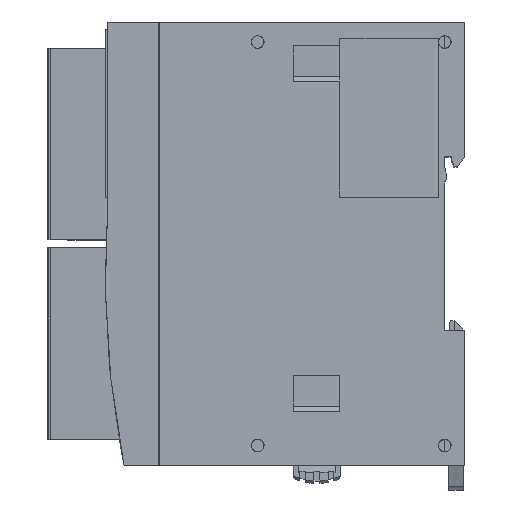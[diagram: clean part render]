
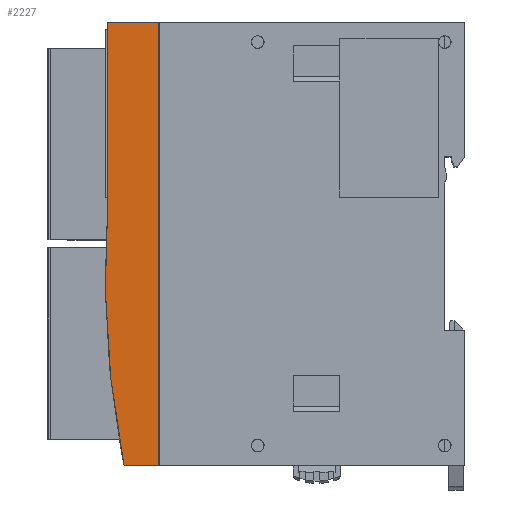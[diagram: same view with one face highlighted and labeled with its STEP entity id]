
A CAD part, top view. The second image highlights one B-rep face of the part: STEP entity #2227.
In plain terms, the highlighted planar face has unit normal (0, 0, 1).
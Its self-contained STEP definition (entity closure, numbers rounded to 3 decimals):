
#2227 = ADVANCED_FACE ( 'NONE', ( #157197 ), #65455, .T. ) ;
#4924 = CARTESIAN_POINT ( 'NONE',  ( -37.333, -22.918, 23.6 ) ) ;
#11959 = CARTESIAN_POINT ( 'NONE',  ( -27.1, 0., 23.6 ) ) ;
#13346 = VERTEX_POINT ( 'NONE', #162826 ) ;
#15269 = CARTESIAN_POINT ( 'NONE',  ( -30.63, -45., 23.6 ) ) ;
#19300 = CARTESIAN_POINT ( 'NONE',  ( -35.755, -36.216, 23.6 ) ) ;
#21483 = EDGE_CURVE ( 'NONE', #49878, #88553, #116718, .T. ) ;
#28434 = DIRECTION ( 'NONE',  ( 0., -1., 0. ) ) ;
#29977 = CARTESIAN_POINT ( 'NONE',  ( -37.494, 8.3, 23.6 ) ) ;
#31798 = DIRECTION ( 'NONE',  ( 0., 0., 1. ) ) ;
#33693 = CARTESIAN_POINT ( 'NONE',  ( -34.161, -45., 23.6 ) ) ;
#33982 = CARTESIAN_POINT ( 'NONE',  ( -37.488, 8.3, 23.6 ) ) ;
#43187 = EDGE_CURVE ( 'NONE', #178447, #13346, #163805, .T. ) ;
#47519 = CARTESIAN_POINT ( 'NONE',  ( -37.488, 8.3, 23.6 ) ) ;
#49561 = VECTOR ( 'NONE', #155299, 1000. ) ;
#49878 = VERTEX_POINT ( 'NONE', #33982 ) ;
#49888 = ORIENTED_EDGE ( 'NONE', *, *, #43187, .T. ) ;
#58159 = ORIENTED_EDGE ( 'NONE', *, *, #64378, .T. ) ;
#58553 = CARTESIAN_POINT ( 'NONE',  ( -34.161, -45., 23.6 ) ) ;
#61794 = VECTOR ( 'NONE', #179106, 1000. ) ;
#61964 = CARTESIAN_POINT ( 'NONE',  ( -37.807, 3.846, 23.6 ) ) ;
#64378 = EDGE_CURVE ( 'NONE', #13346, #120208, #176096, .T. ) ;
#65160 = VECTOR ( 'NONE', #115480, 1000. ) ;
#65455 = PLANE ( 'NONE',  #134957 ) ;
#76427 = CARTESIAN_POINT ( 'NONE',  ( -37.977, -0.614, 23.6 ) ) ;
#78771 = VECTOR ( 'NONE', #116987, 1000. ) ;
#86461 = EDGE_CURVE ( 'NONE', #120208, #88553, #96087, .T. ) ;
#88553 = VERTEX_POINT ( 'NONE', #133461 ) ;
#88609 = ORIENTED_EDGE ( 'NONE', *, *, #169687, .T. ) ;
#90744 = CARTESIAN_POINT ( 'NONE',  ( -37.89, -14.005, 23.6 ) ) ;
#96087 = LINE ( 'NONE', #143051, #129633 ) ;
#96372 = EDGE_CURVE ( 'NONE', #163101, #178447, #174949, .T. ) ;
#100393 = CARTESIAN_POINT ( 'NONE',  ( -37.5, 45., 23.6 ) ) ;
#105163 = CARTESIAN_POINT ( 'NONE',  ( -36.906, -27.361, 23.6 ) ) ;
#107666 = CARTESIAN_POINT ( 'NONE',  ( -32.583, 45., 23.6 ) ) ;
#115480 = DIRECTION ( 'NONE',  ( 1., 0., 0. ) ) ;
#116718 = LINE ( 'NONE', #29977, #78771 ) ;
#116987 = DIRECTION ( 'NONE',  ( -1., 0., 0. ) ) ;
#117574 = CARTESIAN_POINT ( 'NONE',  ( -27.1, -45., 23.6 ) ) ;
#119466 = CARTESIAN_POINT ( 'NONE',  ( -35.031, -40.62, 23.6 ) ) ;
#120208 = VERTEX_POINT ( 'NONE', #100393 ) ;
#124898 = EDGE_LOOP ( 'NONE', ( #88609, #159560, #49888, #58159, #137404, #164695 ) ) ;
#127499 = CARTESIAN_POINT ( 'NONE',  ( -27.1, -45., 23.6 ) ) ;
#129633 = VECTOR ( 'NONE', #28434, 1000. ) ;
#131992 = DIRECTION ( 'NONE',  ( 0., 1., 0. ) ) ;
#133461 = CARTESIAN_POINT ( 'NONE',  ( -37.5, 8.3, 23.6 ) ) ;
#134957 = AXIS2_PLACEMENT_3D ( 'NONE', #117574, #31798, #131992 ) ;
#137404 = ORIENTED_EDGE ( 'NONE', *, *, #86461, .T. ) ;
#143051 = CARTESIAN_POINT ( 'NONE',  ( -37.5, 0., 23.6 ) ) ;
#155299 = DIRECTION ( 'NONE',  ( 0., 1., 0. ) ) ;
#157197 = FACE_OUTER_BOUND ( 'NONE', #124898, .T. ) ;
#159560 = ORIENTED_EDGE ( 'NONE', *, *, #96372, .T. ) ;
#162826 = CARTESIAN_POINT ( 'NONE',  ( -27.1, 45., 23.6 ) ) ;
#163101 = VERTEX_POINT ( 'NONE', #58553 ) ;
#163805 = LINE ( 'NONE', #11959, #49561 ) ;
#164695 = ORIENTED_EDGE ( 'NONE', *, *, #21483, .F. ) ;
#169687 = EDGE_CURVE ( 'NONE', #49878, #163101, #185598, .T. ) ;
#174949 = LINE ( 'NONE', #15269, #65160 ) ;
#176096 = LINE ( 'NONE', #107666, #61794 ) ;
#176580 = CARTESIAN_POINT ( 'NONE',  ( -38.018, -9.544, 23.6 ) ) ;
#178447 = VERTEX_POINT ( 'NONE', #127499 ) ;
#179106 = DIRECTION ( 'NONE',  ( -1., 0., 0. ) ) ;
#185598 = B_SPLINE_CURVE_WITH_KNOTS ( 'NONE', 3,
 ( #47519, #61964, #76427, #176580, #90744, #4924, #105163, #19300, #119466, #33693 ),
 .UNSPECIFIED., .F., .F.,
 ( 4, 2, 2, 2, 4 ),
 ( 0., 0.25, 0.5, 0.75, 1. ),
 .UNSPECIFIED. ) ;
